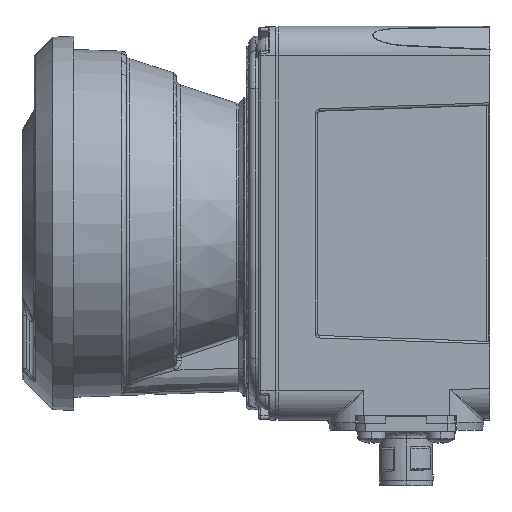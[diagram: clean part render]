
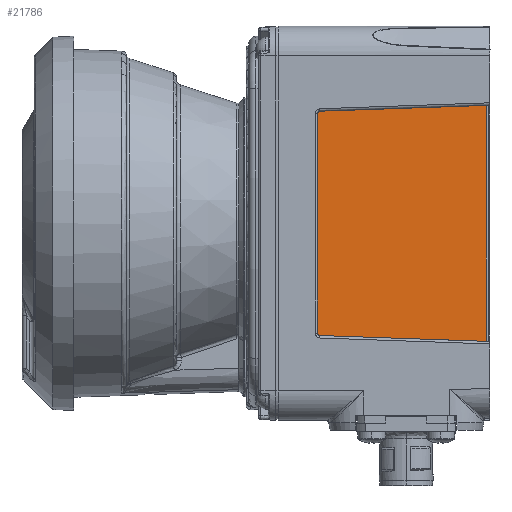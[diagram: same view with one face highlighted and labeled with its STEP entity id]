
A CAD part, left-side view. The second image highlights one B-rep face of the part: STEP entity #21786.
In plain terms, the highlighted planar face has unit normal (-1, -0.018, 0).
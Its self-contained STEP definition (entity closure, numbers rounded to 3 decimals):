
#121 = AXIS2_PLACEMENT_3D ( 'NONE', #58813, #12883, #66470 ) ;
#863 = CARTESIAN_POINT ( 'NONE',  ( -38.852, 34.517, -22.767 ) ) ;
#945 = VECTOR ( 'NONE', #90840, 1000. ) ;
#1383 = ORIENTED_EDGE ( 'NONE', *, *, #9830, .T. ) ;
#4354 = DIRECTION ( 'NONE',  ( 0., 0., 1. ) ) ;
#9830 = EDGE_CURVE ( 'NONE', #73897, #35278, #15986, .T. ) ;
#10974 = ORIENTED_EDGE ( 'NONE', *, *, #67027, .T. ) ;
#12883 = DIRECTION ( 'NONE',  ( -1., -0.017, 0. ) ) ;
#15986 =( BOUNDED_CURVE ( )  B_SPLINE_CURVE ( 3, ( #46812, #85050, #31370, #863 ),
 .UNSPECIFIED., .F., .F. ) 
 B_SPLINE_CURVE_WITH_KNOTS ( ( 4, 4 ),
 ( 3.142, 4.677 ),
 .UNSPECIFIED. ) 
 CURVE ( )  GEOMETRIC_REPRESENTATION_ITEM ( )  RATIONAL_B_SPLINE_CURVE ( ( 1., 0.813, 0.813, 1. ) ) 
 REPRESENTATION_ITEM ( '' )  );
#16617 = LINE ( 'NONE', #34353, #77848 ) ;
#19849 = VERTEX_POINT ( 'NONE', #88949 ) ;
#21786 = ADVANCED_FACE ( 'NONE', ( #36314 ), #26547, .T. ) ;
#23017 = CARTESIAN_POINT ( 'NONE',  ( -38.263, 0.791, 23.945 ) ) ;
#23883 = VERTEX_POINT ( 'NONE', #36868 ) ;
#26547 = PLANE ( 'NONE',  #121 ) ;
#27447 = ORIENTED_EDGE ( 'NONE', *, *, #49252, .T. ) ;
#27817 = CARTESIAN_POINT ( 'NONE',  ( -38.857, 34.802, 22.757 ) ) ;
#30752 = VECTOR ( 'NONE', #4354, 1000. ) ;
#31175 = EDGE_CURVE ( 'NONE', #55812, #58256, #83799, .T. ) ;
#31370 = CARTESIAN_POINT ( 'NONE',  ( -38.857, 34.802, -22.757 ) ) ;
#33114 = EDGE_CURVE ( 'NONE', #73897, #23883, #92015, .T. ) ;
#34353 = CARTESIAN_POINT ( 'NONE',  ( -38.852, 34.517, -22.767 ) ) ;
#34580 = CARTESIAN_POINT ( 'NONE',  ( -38.86, 35., -22.267 ) ) ;
#35278 = VERTEX_POINT ( 'NONE', #41698 ) ;
#35499 = CARTESIAN_POINT ( 'NONE',  ( -38.86, 35., 22.267 ) ) ;
#36314 = FACE_OUTER_BOUND ( 'NONE', #43727, .T. ) ;
#36868 = CARTESIAN_POINT ( 'NONE',  ( -38.86, 35., 22.267 ) ) ;
#38581 = ORIENTED_EDGE ( 'NONE', *, *, #33114, .F. ) ;
#39842 = CARTESIAN_POINT ( 'NONE',  ( -38.263, 0.791, -23.945 ) ) ;
#41698 = CARTESIAN_POINT ( 'NONE',  ( -38.852, 34.517, -22.767 ) ) ;
#43727 = EDGE_LOOP ( 'NONE', ( #38581, #1383, #98522, #85574, #10974, #27447 ) ) ;
#44005 =( BOUNDED_CURVE ( )  B_SPLINE_CURVE ( 3, ( #73758, #27817, #81494, #35499 ),
 .UNSPECIFIED., .F., .F. ) 
 B_SPLINE_CURVE_WITH_KNOTS ( ( 4, 4 ),
 ( 1.606, 3.142 ),
 .UNSPECIFIED. ) 
 CURVE ( )  GEOMETRIC_REPRESENTATION_ITEM ( )  RATIONAL_B_SPLINE_CURVE ( ( 1., 0.813, 0.813, 1. ) ) 
 REPRESENTATION_ITEM ( '' )  );
#44044 = DIRECTION ( 'NONE',  ( 0., 0., 1. ) ) ;
#46812 = CARTESIAN_POINT ( 'NONE',  ( -38.86, 35., -22.267 ) ) ;
#49252 = EDGE_CURVE ( 'NONE', #19849, #23883, #44005, .T. ) ;
#50322 = CARTESIAN_POINT ( 'NONE',  ( -38.86, 35., 0. ) ) ;
#55812 = VERTEX_POINT ( 'NONE', #39842 ) ;
#58256 = VERTEX_POINT ( 'NONE', #23017 ) ;
#58813 = CARTESIAN_POINT ( 'NONE',  ( -39., 43., 40. ) ) ;
#63359 = VECTOR ( 'NONE', #44044, 1000. ) ;
#66470 = DIRECTION ( 'NONE',  ( -0.017, 1., 0. ) ) ;
#67027 = EDGE_CURVE ( 'NONE', #58256, #19849, #82603, .T. ) ;
#73758 = CARTESIAN_POINT ( 'NONE',  ( -38.852, 34.517, 22.767 ) ) ;
#73897 = VERTEX_POINT ( 'NONE', #34580 ) ;
#74589 = CARTESIAN_POINT ( 'NONE',  ( -38.263, 0.791, 40. ) ) ;
#77848 = VECTOR ( 'NONE', #88032, 1000. ) ;
#81494 = CARTESIAN_POINT ( 'NONE',  ( -38.86, 35., 22.552 ) ) ;
#82603 = LINE ( 'NONE', #83128, #945 ) ;
#83128 = CARTESIAN_POINT ( 'NONE',  ( -38.263, 0.791, 23.945 ) ) ;
#83799 = LINE ( 'NONE', #74589, #63359 ) ;
#85050 = CARTESIAN_POINT ( 'NONE',  ( -38.86, 35., -22.552 ) ) ;
#85574 = ORIENTED_EDGE ( 'NONE', *, *, #31175, .T. ) ;
#88032 = DIRECTION ( 'NONE',  ( 0.017, -0.999, -0.035 ) ) ;
#88949 = CARTESIAN_POINT ( 'NONE',  ( -38.852, 34.517, 22.767 ) ) ;
#90840 = DIRECTION ( 'NONE',  ( -0.017, 0.999, -0.035 ) ) ;
#92015 = LINE ( 'NONE', #50322, #30752 ) ;
#96860 = EDGE_CURVE ( 'NONE', #35278, #55812, #16617, .T. ) ;
#98522 = ORIENTED_EDGE ( 'NONE', *, *, #96860, .T. ) ;
